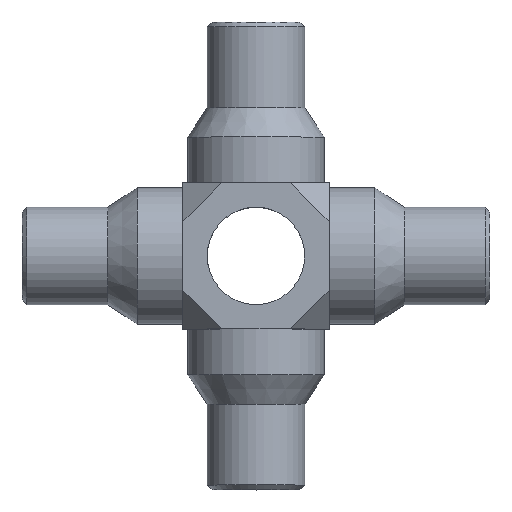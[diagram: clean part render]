
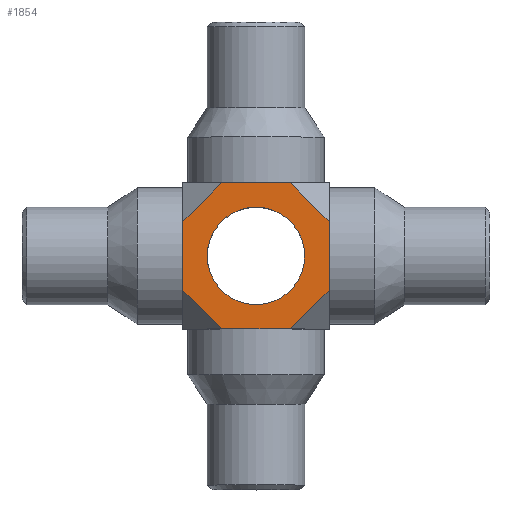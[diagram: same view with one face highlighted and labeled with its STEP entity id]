
A CAD part, top view. The second image highlights one B-rep face of the part: STEP entity #1854.
In plain terms, the highlighted planar face has unit normal (0, 0, 1).
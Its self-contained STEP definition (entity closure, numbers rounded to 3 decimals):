
#20 = CARTESIAN_POINT ( 'NONE',  ( -3.751, 1.75, -196.251 ) ) ;
#43 = CARTESIAN_POINT ( 'NONE',  ( 3.749, -3.75, -196.249 ) ) ;
#57 = DIRECTION ( 'NONE',  ( 0., -1., 0. ) ) ;
#72 = CARTESIAN_POINT ( 'NONE',  ( -3.751, -1.75, -196.251 ) ) ;
#140 = EDGE_CURVE ( 'NONE', #1802, #1547, #1012, .T. ) ;
#183 = LINE ( 'NONE', #197, #904 ) ;
#185 = DIRECTION ( 'NONE',  ( 0., 0., -1. ) ) ;
#197 = CARTESIAN_POINT ( 'NONE',  ( -2.751, 2.75, -196.25 ) ) ;
#250 = EDGE_CURVE ( 'NONE', #258, #886, #302, .T. ) ;
#251 = ORIENTED_EDGE ( 'NONE', *, *, #250, .T. ) ;
#258 = VERTEX_POINT ( 'NONE', #1713 ) ;
#263 = ORIENTED_EDGE ( 'NONE', *, *, #404, .F. ) ;
#295 = VECTOR ( 'NONE', #1277, 1000. ) ;
#302 = LINE ( 'NONE', #450, #1215 ) ;
#316 = CARTESIAN_POINT ( 'NONE',  ( 6.499, -1., -196.249 ) ) ;
#387 = LINE ( 'NONE', #1180, #1024 ) ;
#388 = VECTOR ( 'NONE', #1457, 1000. ) ;
#389 = CARTESIAN_POINT ( 'NONE',  ( -1.751, 3.75, -196.25 ) ) ;
#404 = EDGE_CURVE ( 'NONE', #1802, #1351, #845, .T. ) ;
#450 = CARTESIAN_POINT ( 'NONE',  ( 2.749, -2.75, -196.25 ) ) ;
#495 = LINE ( 'NONE', #43, #990 ) ;
#534 = EDGE_CURVE ( 'NONE', #258, #1508, #495, .T. ) ;
#540 = ORIENTED_EDGE ( 'NONE', *, *, #1128, .T. ) ;
#544 = CARTESIAN_POINT ( 'NONE',  ( 0.999, -6.5, -196.25 ) ) ;
#560 = EDGE_CURVE ( 'NONE', #925, #1133, #387, .T. ) ;
#601 = ORIENTED_EDGE ( 'NONE', *, *, #140, .T. ) ;
#640 = DIRECTION ( 'NONE',  ( 0., -1., 0. ) ) ;
#650 = DIRECTION ( 'NONE',  ( 0., 0., -1. ) ) ;
#671 = CARTESIAN_POINT ( 'NONE',  ( 3.749, 1.75, -196.249 ) ) ;
#765 = CIRCLE ( 'NONE', #998, 2.5 ) ;
#805 = DIRECTION ( 'NONE',  ( 0., -1., 0. ) ) ;
#831 = CARTESIAN_POINT ( 'NONE',  ( -0.001, -2.5, -196.25 ) ) ;
#832 = EDGE_CURVE ( 'NONE', #1422, #843, #958, .T. ) ;
#843 = VERTEX_POINT ( 'NONE', #831 ) ;
#845 = LINE ( 'NONE', #316, #388 ) ;
#861 = VECTOR ( 'NONE', #1310, 1000. ) ;
#865 = DIRECTION ( 'NONE',  ( 0., 1., 0. ) ) ;
#879 = CARTESIAN_POINT ( 'NONE',  ( -1.751, -3.75, -196.25 ) ) ;
#886 = VERTEX_POINT ( 'NONE', #1144 ) ;
#904 = VECTOR ( 'NONE', #1782, 1000. ) ;
#925 = VERTEX_POINT ( 'NONE', #72 ) ;
#942 = CARTESIAN_POINT ( 'NONE',  ( 3.749, -3.75, -196.249 ) ) ;
#958 = CIRCLE ( 'NONE', #992, 2.5 ) ;
#976 = DIRECTION ( 'NONE',  ( -0.707, 0.707, 0. ) ) ;
#990 = VECTOR ( 'NONE', #1791, 1000. ) ;
#992 = AXIS2_PLACEMENT_3D ( 'NONE', #1610, #650, #640 ) ;
#998 = AXIS2_PLACEMENT_3D ( 'NONE', #1307, #1117, #805 ) ;
#1012 = LINE ( 'NONE', #1650, #861 ) ;
#1024 = VECTOR ( 'NONE', #865, 1000. ) ;
#1058 = AXIS2_PLACEMENT_3D ( 'NONE', #1319, #185, #57 ) ;
#1069 = ORIENTED_EDGE ( 'NONE', *, *, #1371, .F. ) ;
#1075 = DIRECTION ( 'NONE',  ( 0.707, 0.707, 0. ) ) ;
#1117 = DIRECTION ( 'NONE',  ( 0., 0., -1. ) ) ;
#1128 = EDGE_CURVE ( 'NONE', #886, #1351, #1466, .T. ) ;
#1133 = VERTEX_POINT ( 'NONE', #20 ) ;
#1144 = CARTESIAN_POINT ( 'NONE',  ( 3.749, -1.75, -196.249 ) ) ;
#1180 = CARTESIAN_POINT ( 'NONE',  ( -3.751, -3.75, -196.251 ) ) ;
#1215 = VECTOR ( 'NONE', #1075, 1000. ) ;
#1273 = EDGE_LOOP ( 'NONE', ( #263, #601, #1069, #1741, #1939, #1494, #251, #540 ) ) ;
#1277 = DIRECTION ( 'NONE',  ( 0., 1., 0. ) ) ;
#1307 = CARTESIAN_POINT ( 'NONE',  ( -0.001, 0., -196.25 ) ) ;
#1310 = DIRECTION ( 'NONE',  ( -1., 0., 0. ) ) ;
#1319 = CARTESIAN_POINT ( 'NONE',  ( 3.749, -3.75, -196.249 ) ) ;
#1337 = ORIENTED_EDGE ( 'NONE', *, *, #1363, .T. ) ;
#1351 = VERTEX_POINT ( 'NONE', #671 ) ;
#1363 = EDGE_CURVE ( 'NONE', #843, #1422, #765, .T. ) ;
#1371 = EDGE_CURVE ( 'NONE', #1133, #1547, #183, .T. ) ;
#1422 = VERTEX_POINT ( 'NONE', #2076 ) ;
#1457 = DIRECTION ( 'NONE',  ( 0.707, -0.707, 0. ) ) ;
#1466 = LINE ( 'NONE', #942, #295 ) ;
#1494 = ORIENTED_EDGE ( 'NONE', *, *, #534, .F. ) ;
#1508 = VERTEX_POINT ( 'NONE', #879 ) ;
#1547 = VERTEX_POINT ( 'NONE', #389 ) ;
#1596 = VECTOR ( 'NONE', #976, 1000. ) ;
#1610 = CARTESIAN_POINT ( 'NONE',  ( -0.001, 0., -196.25 ) ) ;
#1616 = FACE_BOUND ( 'NONE', #1636, .T. ) ;
#1636 = EDGE_LOOP ( 'NONE', ( #1337, #2052 ) ) ;
#1650 = CARTESIAN_POINT ( 'NONE',  ( 3.749, 3.75, -196.249 ) ) ;
#1713 = CARTESIAN_POINT ( 'NONE',  ( 1.749, -3.75, -196.25 ) ) ;
#1741 = ORIENTED_EDGE ( 'NONE', *, *, #560, .F. ) ;
#1782 = DIRECTION ( 'NONE',  ( 0.707, 0.707, 0. ) ) ;
#1791 = DIRECTION ( 'NONE',  ( -1., 0., 0. ) ) ;
#1802 = VERTEX_POINT ( 'NONE', #1910 ) ;
#1854 = ADVANCED_FACE ( 'NONE', ( #1969, #1616 ), #1935, .F. ) ;
#1885 = EDGE_CURVE ( 'NONE', #1508, #925, #1983, .T. ) ;
#1910 = CARTESIAN_POINT ( 'NONE',  ( 1.749, 3.75, -196.25 ) ) ;
#1935 = PLANE ( 'NONE',  #1058 ) ;
#1939 = ORIENTED_EDGE ( 'NONE', *, *, #1885, .F. ) ;
#1969 = FACE_OUTER_BOUND ( 'NONE', #1273, .T. ) ;
#1983 = LINE ( 'NONE', #544, #1596 ) ;
#2052 = ORIENTED_EDGE ( 'NONE', *, *, #832, .T. ) ;
#2076 = CARTESIAN_POINT ( 'NONE',  ( -0.001, 2.5, -196.25 ) ) ;
